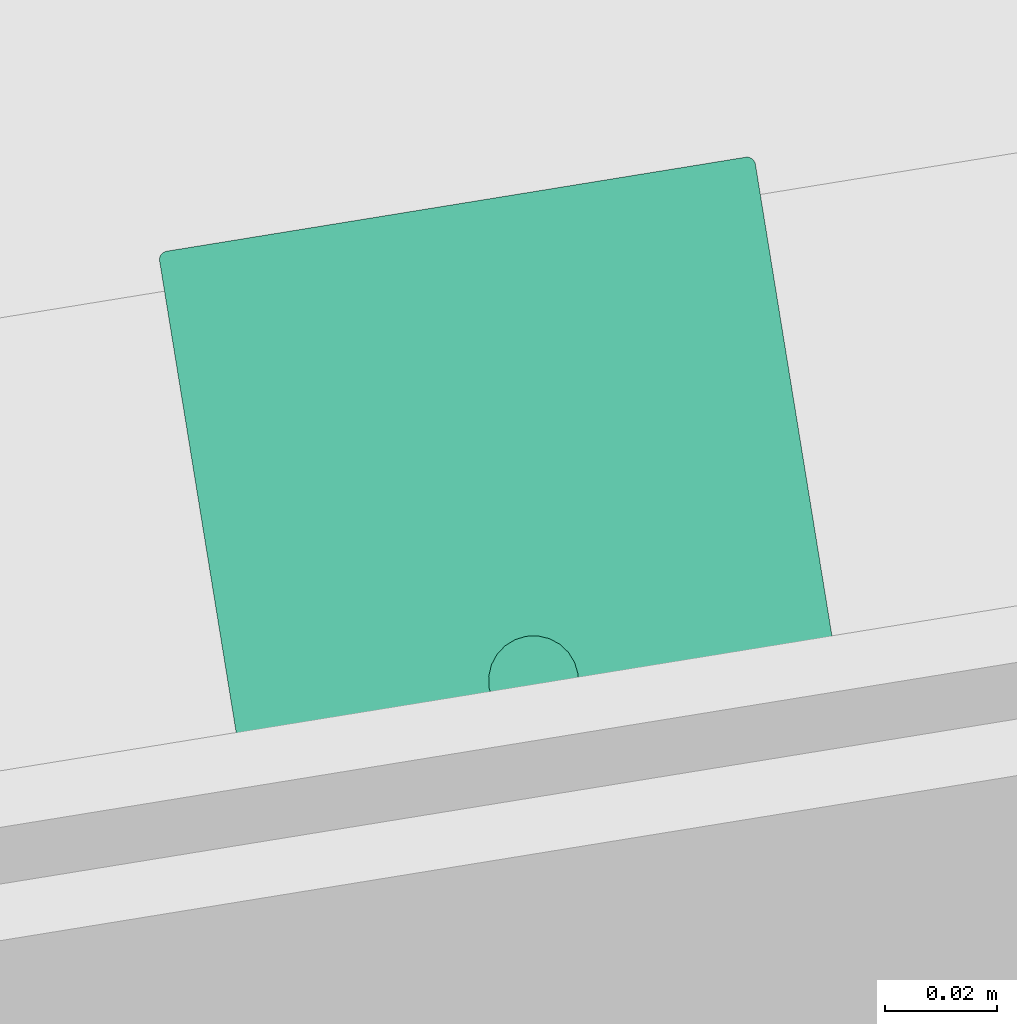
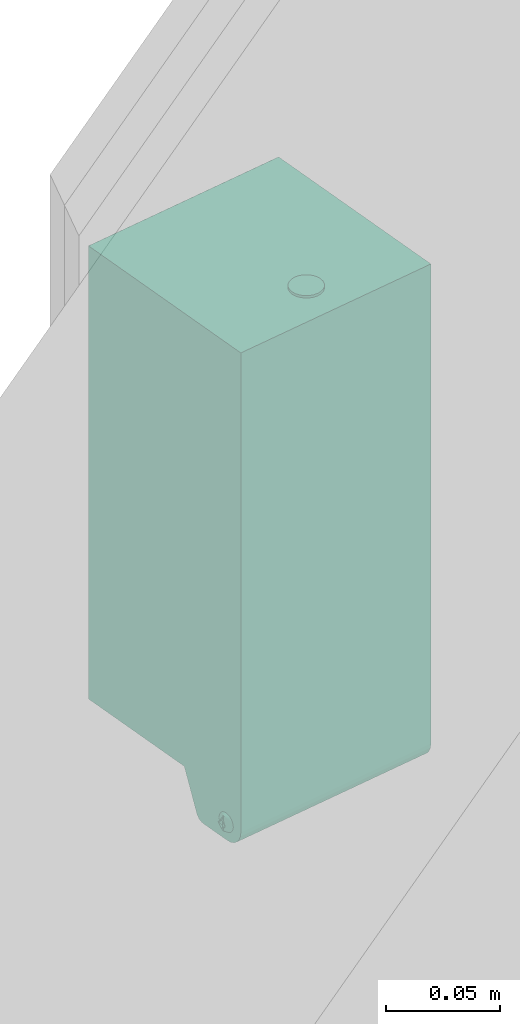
# One storey, part 32 of 38: 1 flow terminal.
"""IFC2X3 building model written with IfcOpenShell, lengths in millimetres."""

import ifcopenshell
import ifcopenshell.guid

model = None  # the IFC model being written
_history = None  # IfcOwnerHistory: only IFC2X3 demands one
_inside = {}  # id of a spatial element -> (the spatial element, [elements in it])
_under = {}  # id of a project, library or spatial element -> (it, [spatial elements below it])
_declared = {}  # id of a project -> (the project, [libraries it declares])
_typed = {}  # id of a type object -> (the type object, [elements of that type])
_made_of = {}  # id of a material, layer set ... -> (it, [elements and type objects made of it])


def new_model(schema):
    """Start an empty IFC model of exactly this schema.

    Asked for "IFC4X3", IfcOpenShell would pick the latest addendum, in which some entities
    have other attributes; the version numbers below select the first issue.
    IFC2X3 requires an IfcOwnerHistory on every rooted entity: one is made here for all.
    """
    global model, _history
    if schema == "IFC4X3":
        model = ifcopenshell.file(schema_version=(4, 3, 0, 0))
    else:
        model = ifcopenshell.file(schema=schema)
    _inside.clear()
    _under.clear()
    _declared.clear()
    _typed.clear()
    _made_of.clear()
    _history = None
    if model.schema == "IFC2X3":
        org = make("IfcOrganization", Name="unknown")
        user = make(
            "IfcPersonAndOrganization",
            ThePerson=make("IfcPerson", FamilyName="unknown"),
            TheOrganization=org,
        )
        app = make(
            "IfcApplication",
            ApplicationDeveloper=org,
            Version="unknown",
            ApplicationFullName="unknown",
            ApplicationIdentifier="unknown",
        )
        _history = make(
            "IfcOwnerHistory",
            OwningUser=user,
            OwningApplication=app,
            ChangeAction="ADDED",
            CreationDate=0,
        )
    return model


def make(cls, **values):
    """One entity of the class cls with the attributes given. An attribute that is None is left unset."""
    return model.create_entity(
        cls, **{name: value for name, value in values.items() if value is not None}
    )


def entity(cls, *values):
    """Any entity or typed value of the class cls, its attributes in the order of the schema. None: left unset."""
    e = model.create_entity(cls)
    for i, value in enumerate(values):
        if value is not None:
            e[i] = value
    return e


def rooted(cls, **values):
    """An entity with a GlobalId (a new one), such as an element, a storey or a relation."""
    return make(cls, GlobalId=ifcopenshell.guid.new(), OwnerHistory=_history, **values)


def si_unit(unit_type, name, prefix=None):
    """IfcSIUnit, for example si_unit("LENGTHUNIT", "METRE", prefix="MILLI")."""
    return make("IfcSIUnit", UnitType=unit_type, Prefix=prefix, Name=name)


def converted_unit(unit_type, name, factor, base, dimensions=None, offset=None):
    """IfcConversionBasedUnit, such as the inch: factor (a typed value) times the base unit."""
    return make(
        "IfcConversionBasedUnit"
        if offset is None
        else "IfcConversionBasedUnitWithOffset",
        ConversionOffset=offset,
        Dimensions=None
        if dimensions is None
        else entity("IfcDimensionalExponents", *dimensions),
        UnitType=unit_type,
        Name=name,
        ConversionFactor=make(
            "IfcMeasureWithUnit", ValueComponent=factor, UnitComponent=base
        ),
    )


def derived_unit(unit_type, elements):
    """IfcDerivedUnit: a product of units, each with its exponent."""
    return make(
        "IfcDerivedUnit",
        Elements=[
            make("IfcDerivedUnitElement", Unit=unit, Exponent=power)
            for unit, power in elements
        ],
        UnitType=unit_type,
    )


def assignment(units):
    """IfcUnitAssignment: the units of a project."""
    return None if units is None else make("IfcUnitAssignment", Units=units)


def point(xyz):
    """IfcCartesianPoint."""
    return None if xyz is None else make("IfcCartesianPoint", Coordinates=xyz)


def direction(xyz):
    """IfcDirection."""
    return None if xyz is None else make("IfcDirection", DirectionRatios=xyz)


def frame(location, z_axis=None, x_axis=None):
    """IfcAxis2Placement3D, a coordinate frame: its origin and axes. An axis left out is left unset."""
    return make(
        "IfcAxis2Placement3D",
        Location=point(location),
        Axis=direction(z_axis),
        RefDirection=direction(x_axis),
    )


def origin():
    """The frame at (0, 0, 0) with its axes left unset."""
    return frame((0.0, 0.0, 0.0))


def origin_with_axes():
    """The frame at (0, 0, 0) with the z axis (0, 0, 1) and the x axis (1, 0, 0) written out."""
    return frame((0.0, 0.0, 0.0), z_axis=(0.0, 0.0, 1.0), x_axis=(1.0, 0.0, 0.0))


def place(relative_to, where):
    """IfcLocalPlacement: puts the frame where relative to a parent placement (None: the world)."""
    return make(
        "IfcLocalPlacement", PlacementRelTo=relative_to, RelativePlacement=where
    )


def context(
    kind, dimensions, precision=None, world=None, true_north=None, identifier=None
):
    """IfcGeometricRepresentationContext, for example the 3D "Model" context."""
    return make(
        "IfcGeometricRepresentationContext",
        ContextIdentifier=identifier,
        ContextType=kind,
        CoordinateSpaceDimension=dimensions,
        Precision=precision,
        WorldCoordinateSystem=world,
        TrueNorth=true_north,
    )


def subcontext(parent, identifier, kind, view, scale=None):
    """IfcGeometricRepresentationSubContext, for example "Body" below "Model"."""
    return make(
        "IfcGeometricRepresentationSubContext",
        ContextIdentifier=identifier,
        ContextType=kind,
        ParentContext=parent,
        TargetScale=scale,
        TargetView=view,
    )


def project(units=None, contexts=None):
    """IfcProject with its units and contexts."""
    return rooted(
        "IfcProject",
        Name="project",
        RepresentationContexts=contexts,
        UnitsInContext=assignment(units),
    )


def spatial(cls, under=None, at=None, **own):
    """A site, building, storey or space (cls), placed at a placement, below another one or the project."""
    s = rooted(cls, ObjectPlacement=at, **own)
    if under is not None:
        _under.setdefault(under.id(), (under, []))[1].append(s)
    return s


def faces_of(points, faces, orient=None, outer=None):
    """IfcFace entities. A face is a list of loops; a loop is a list of indices into points, from 0.

    orient and outer hold one flag for each loop. By default every Orientation is true, the
    first loop of a face is its IfcFaceOuterBound and the others are IfcFaceBound.
    """
    made = []
    for i, loops in enumerate(faces):
        bounds = []
        for j, loop in enumerate(loops):
            is_outer = j == 0 if outer is None else outer[i][j]
            bounds.append(
                make(
                    "IfcFaceOuterBound" if is_outer else "IfcFaceBound",
                    Bound=make("IfcPolyLoop", Polygon=[points[k] for k in loop]),
                    Orientation=True if orient is None else orient[i][j],
                )
            )
        made.append(make("IfcFace", Bounds=bounds))
    return made


def face_set(faces, orient=None, outer=None):
    """The faces of one IfcConnectedFaceSet. surface_model builds it on its shared points."""
    return ("IfcConnectedFaceSet", faces, orient, outer)


def surface_model(cls, points, shells):
    """IfcFaceBasedSurfaceModel or IfcShellBasedSurfaceModel (cls): surfaces that need not close."""
    shared = [point(p) for p in points]
    made = [make(c, CfsFaces=faces_of(shared, fs, o, b)) for c, fs, o, b in shells]
    if cls == "IfcFaceBasedSurfaceModel":
        return make(cls, FbsmFaces=made)
    return make(cls, SbsmBoundary=made)


def shape(context_of_items, identifier, shape_type, items):
    """IfcShapeRepresentation: the items that make up one representation, for example the "Body"."""
    return make(
        "IfcShapeRepresentation",
        ContextOfItems=context_of_items,
        RepresentationIdentifier=identifier,
        RepresentationType=shape_type,
        Items=items,
    )


def source(mapping_origin, context_of_items, identifier, shape_type, items):
    """IfcRepresentationMap: a shape defined once, which mapped items show again and again."""
    return make(
        "IfcRepresentationMap",
        MappingOrigin=mapping_origin,
        MappedRepresentation=shape(context_of_items, identifier, shape_type, items),
    )


def transform(
    local_origin,
    x_axis=None,
    y_axis=None,
    z_axis=None,
    scale=None,
    scale2=None,
    scale3=None,
    uniform=True,
):
    """IfcCartesianTransformationOperator3D, or its non-uniform kind. x_axis, y_axis, z_axis: its Axis1, 2, 3."""
    if uniform:
        return make(
            "IfcCartesianTransformationOperator3D",
            Axis1=direction(x_axis),
            Axis2=direction(y_axis),
            LocalOrigin=point(local_origin),
            Scale=scale,
            Axis3=direction(z_axis),
        )
    return make(
        "IfcCartesianTransformationOperator3DnonUniform",
        Axis1=direction(x_axis),
        Axis2=direction(y_axis),
        LocalOrigin=point(local_origin),
        Scale=scale,
        Axis3=direction(z_axis),
        Scale2=scale2,
        Scale3=scale3,
    )


def mapped(mapping_source, mapping_target):
    """IfcMappedItem: shows the shape of a source again, moved by a transform."""
    return make(
        "IfcMappedItem", MappingSource=mapping_source, MappingTarget=mapping_target
    )


def material(Name=None, Category=None):
    """IfcMaterial."""
    return make("IfcMaterial", Name=Name, Category=Category)


def material_list(materials):
    """IfcMaterialList."""
    return make("IfcMaterialList", Materials=materials)


def made_of(thing, what):
    """Note that an element or type object is made of a material, layer set ...; save() writes the relation."""
    if what is not None:
        _made_of.setdefault(what.id(), (what, []))[1].append(thing)
    return thing


def type_object(cls, material=None, **own):
    """A type object (cls), such as IfcWallType, which elements share."""
    return made_of(rooted(cls, **own), material)


def element(
    cls,
    number,
    at=None,
    inside=None,
    cuts=None,
    type_object=None,
    material=None,
    context=None,
    identifier="Body",
    shape_type=None,
    held_by="IfcProductDefinitionShape",
    body=None,
    shapes=None,
    **own,
):
    """One element of the class cls, such as IfcWall. Its Tag is "e" and its number.

    at: its placement. inside: the storey or other place that contains it. cuts: it is an
    opening in that element (IfcRelVoidsElement). A single representation is given by context,
    identifier, shape_type and body (its items); several are given by shapes. held_by: the class
    of the entity that holds the representations. save() writes the other relations.
    """
    e = rooted(cls, Tag="e%d" % number, ObjectPlacement=at, **own)
    if body is not None:
        shapes = [shape(context, identifier, shape_type, body)]
    if shapes is not None:
        e.Representation = make(held_by, Representations=shapes)
    if inside is not None:
        _inside.setdefault(inside.id(), (inside, []))[1].append(e)
    if cuts is not None:
        rooted(
            "IfcRelVoidsElement", RelatingBuildingElement=cuts, RelatedOpeningElement=e
        )
    if type_object is not None:
        _typed.setdefault(type_object.id(), (type_object, []))[1].append(e)
    return made_of(e, material)


def aggregate(whole, parts):
    """IfcRelAggregates: a whole, such as a stair, and the parts it consists of."""
    return rooted("IfcRelAggregates", RelatingObject=whole, RelatedObjects=parts)


def save(model, path):
    """Write the relations noted so far, then the file.

    IfcRelAggregates (storeys below a building ...), IfcRelContainedInSpatialStructure (elements
    in a storey), IfcRelDefinesByType, IfcRelAssociatesMaterial and IfcRelDeclares: one each for
    every whole, place, type object, material and project.
    """
    for whole, parts in _under.values():
        aggregate(whole, parts)
    for where, things in _inside.values():
        rooted(
            "IfcRelContainedInSpatialStructure",
            RelatedElements=things,
            RelatingStructure=where,
        )
    for kind, things in _typed.values():
        rooted("IfcRelDefinesByType", RelatedObjects=things, RelatingType=kind)
    for what, things in _made_of.values():
        rooted("IfcRelAssociatesMaterial", RelatedObjects=things, RelatingMaterial=what)
    for by, libraries in _declared.values():
        rooted("IfcRelDeclares", RelatingContext=by, RelatedDefinitions=libraries)
    model.write(path)


model = new_model("IFC2X3")

# Units and contexts
model_context = context("Model", 3, precision=0.01, world=origin(), true_north=direction((6.12323399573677e-17, 1.0)))
plan_context = context("Plan", 3, precision=1e-05, world=origin_with_axes())
body_context = subcontext(model_context, "Body", "Model", "MODEL_VIEW")
ifc_project = project(units=[converted_unit("PLANEANGLEUNIT", "DEGREE", entity("IfcPositiveLengthMeasure", 0.0174532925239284), si_unit("PLANEANGLEUNIT", "RADIAN"), dimensions=[0, 0, 0, 0, 0, 0, 0]), si_unit("AREAUNIT", "SQUARE_METRE"), si_unit("LENGTHUNIT", "METRE", prefix="MILLI"), si_unit("MASSUNIT", "GRAM", prefix="KILO"), si_unit("POWERUNIT", "WATT"), si_unit("PRESSUREUNIT", "PASCAL", prefix="KILO"), si_unit("FORCEUNIT", "NEWTON", prefix="KILO"), si_unit("ELECTRICVOLTAGEUNIT", "VOLT"), si_unit("ELECTRICCURRENTUNIT", "AMPERE"), si_unit("THERMODYNAMICTEMPERATUREUNIT", "DEGREE_CELSIUS"), si_unit("TIMEUNIT", "SECOND"), si_unit("VOLUMEUNIT", "CUBIC_METRE"), derived_unit("LINEARVELOCITYUNIT", [(si_unit("LENGTHUNIT", "METRE"), 1), (si_unit("TIMEUNIT", "SECOND"), -1)]), derived_unit("VOLUMETRICFLOWRATEUNIT", [(si_unit("VOLUMEUNIT", "CUBIC_METRE"), 1), (si_unit("TIMEUNIT", "SECOND"), -1)]), derived_unit("THERMALTRANSMITTANCEUNIT", [(si_unit("POWERUNIT", "WATT"), 1), (si_unit("THERMODYNAMICTEMPERATUREUNIT", "KELVIN"), -1), (si_unit("AREAUNIT", "SQUARE_METRE"), -1)]), derived_unit("SOUNDPRESSUREUNIT", [(si_unit("PRESSUREUNIT", "PASCAL"), 1)])], contexts=[model_context, plan_context])

# Site, building, storey
site_placement = place(None, frame((-0.00071070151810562, 0.00438415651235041, 0.0), z_axis=(0.0, 0.0, 1.0), x_axis=(-0.160236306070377, 0.987078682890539, 0.0)))
site = spatial("IfcSite", under=ifc_project, at=site_placement, Name="Default", CompositionType="ELEMENT")
building_placement = place(site_placement, origin_with_axes())
building = spatial("IfcBuilding", under=site, at=building_placement, Name="TOO", CompositionType="ELEMENT")
storey_placement = place(building_placement, frame((0.0, 0.0, 50999.9999999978), z_axis=(0.0, 0.0, 1.0), x_axis=(1.0, 0.0, 0.0)))
storey = spatial("IfcBuildingStorey", under=building, at=storey_placement, Name="Nivå D-H01", CompositionType="ELEMENT", Elevation=50999.9999999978)

# Flow terminal
ifc_material_1 = material(Name="GFRP")
ifc_material_2 = material(Name="Satin")
ifc_material_list_1 = material_list([ifc_material_1, ifc_material_2])
ifc_material_list_2 = material_list([ifc_material_2, ifc_material_1])
distribution_element_type = type_object("IfcDistributionElementType", Name="A274 - Såp dispenser-berøringsfri:Såp-berøringsfri", material=ifc_material_list_2)
shared_shape = source(origin(), body_context, "Body", "SurfaceModel", [
    surface_model("IfcFaceBasedSurfaceModel", [(53.867833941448, -70.0655699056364, 28.580410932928), (53.867833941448, -70.0655699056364, 23.5804109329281), (49.562616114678, -74.3707877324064, 23.5804109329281), (49.562616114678, -74.3707877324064, 28.580410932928), (53.867833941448, -78.6760055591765, 23.5804109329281), (53.867833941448, -78.6760055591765, 28.580410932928), (58.173051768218, -74.3707877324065, 23.5804109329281), (58.173051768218, -74.3707877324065, 28.580410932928), (53.867833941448, -74.3707877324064, 28.580410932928), (51.6222204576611, -74.3707877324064, 10.5765808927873), (53.867833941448, -74.3707877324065, 10.5765808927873), (53.867833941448, -76.6164012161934, 10.5765808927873), (53.867833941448, -72.1251742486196, 10.5765808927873), (56.1134474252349, -74.3707877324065, 10.5765808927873)], [face_set([[[0, 1, 2, 3]], [[2, 4, 5, 3]], [[5, 4, 6, 7]], [[6, 1, 0, 7]], [[5, 8, 3]], [[5, 7, 8]], [[0, 8, 7]], [[0, 3, 8]], [[9, 10, 11]], [[10, 9, 12]], [[13, 10, 12]], [[10, 13, 11]], [[12, 9, 2, 1]], [[2, 9, 11, 4]], [[11, 13, 6, 4]], [[6, 13, 12, 1]]])]),
    surface_model("IfcFaceBasedSurfaceModel", [(108.0, -39.4140796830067, 23.580410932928), (108.0, -30.697885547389, 3.04634435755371), (108.0, -30.1198302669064, 2.0329055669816), (108.0, -29.3226497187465, 1.1810198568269), (108.0, -28.3497489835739, 0.537070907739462), (108.0, -27.2541007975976, 0.136120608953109), (108.0, -26.0953612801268, 0.0), (108.0, -9.47406113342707, 0.0), (108.0, -7.02199367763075, 0.322820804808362), (108.0, -4.73703056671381, 1.26928351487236), (108.0, -2.77488826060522, 2.77488826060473), (108.0, -1.26928351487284, 4.73703056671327), (108.0, -0.322820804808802, 7.02199367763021), (108.0, 0.0, 9.47406113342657), (108.0, 0.0, 267.0), (108.0, -102.0, 267.0), (108.0, -105.492714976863, 267.0), (108.0, -105.492714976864, 23.5804109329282), (108.0, -102.0, 23.5804109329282), (108.0, -10.1917276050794, 14.4016882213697), (108.0, -8.90825756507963, 14.2327161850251), (108.0, -7.71225388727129, 13.7373152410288), (108.0, -6.68522224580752, 12.9492461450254), (108.0, -5.89715314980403, 11.9222145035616), (108.0, -5.4017522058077, 10.7262108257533), (108.0, -5.23278016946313, 9.44274078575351), (108.0, -5.40175220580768, 8.15927074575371), (108.0, -5.89715314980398, 6.96326706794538), (108.0, -6.68522224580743, 5.93623542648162), (108.0, -7.71225388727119, 5.14816633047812), (108.0, -8.90825756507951, 4.65276538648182), (108.0, -10.1917276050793, 4.48379335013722), (108.0, -11.4751976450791, 4.65276538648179), (108.0, -12.6712013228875, 5.14816633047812), (108.0, -13.6982329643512, 5.93623542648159), (108.0, -14.4863020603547, 6.96326706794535), (108.0, -14.981703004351, 8.15927074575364), (108.0, -15.1506750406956, 9.44274078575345), (108.0, -14.981703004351, 10.7262108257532), (108.0, -14.4863020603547, 11.9222145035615), (108.0, -13.6982329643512, 12.9492461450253), (108.0, -12.6712013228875, 13.7373152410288), (108.0, -11.4751976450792, 14.2327161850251), (0.0, 0.0, 267.0), (0.0, 0.0, 9.47406113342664), (0.0, -0.322820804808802, 7.02199367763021), (0.0, -1.26928351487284, 4.73703056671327), (0.0, -2.77488826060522, 2.77488826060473), (0.0, -4.73703056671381, 1.26928351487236), (0.0, -7.02199367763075, 0.322820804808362), (0.0, -9.47406113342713, 0.0), (0.0, -26.0953612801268, 0.0), (0.0, -27.2541007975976, 0.136120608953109), (0.0, -28.3497489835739, 0.537070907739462), (0.0, -29.3226497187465, 1.1810198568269), (0.0, -30.1198302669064, 2.0329055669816), (0.0, -30.697885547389, 3.04634435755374), (0.0, -39.4140796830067, 23.580410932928), (0.0, -102.0, 23.5804109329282), (0.0, -105.492714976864, 23.5804109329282), (0.0, -105.492714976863, 267.0), (0.0, -102.0, 267.0), (0.0, -10.1917276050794, 4.47674269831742), (0.0, -8.90825756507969, 4.64571473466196), (0.0, -7.71225388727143, 5.14111567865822), (0.0, -6.68522224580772, 5.92918477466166), (0.0, -5.89715314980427, 6.95621641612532), (0.0, -5.40175220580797, 8.15222009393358), (0.0, -5.2327801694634, 9.43569013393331), (0.0, -5.40175220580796, 10.719160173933), (0.0, -5.89715314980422, 11.9151638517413), (0.0, -6.68522224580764, 12.942195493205), (0.0, -7.71225388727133, 13.7302645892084), (0.0, -8.90825756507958, 14.2256655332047), (0.0, -10.1917276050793, 14.3946375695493), (0.0, -11.4751976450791, 14.2256655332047), (0.0, -12.6712013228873, 13.7302645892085), (0.0, -13.698232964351, 12.942195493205), (0.0, -14.4863020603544, 11.9151638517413), (0.0, -14.9817030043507, 10.7191601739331), (0.0, -15.1506750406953, 9.43569013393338), (0.0, -14.9817030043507, 8.15222009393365), (0.0, -14.4863020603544, 6.95621641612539), (0.0, -13.698232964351, 5.92918477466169), (0.0, -12.6712013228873, 5.14111567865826), (0.0, -11.4751976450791, 4.645714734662), (62.0462019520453, -20.6328952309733, 267.0), (61.7720342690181, -22.7154055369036, 267.0), (60.9682152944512, -24.6559962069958, 267.0), (59.6895239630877, -26.3224191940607, 267.0), (58.0231009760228, -27.6011105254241, 267.0), (56.0825103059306, -28.404929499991, 267.0), (54.0, -28.6790971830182, 267.0), (51.9174896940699, -28.404929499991, 267.0), (49.9768990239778, -27.6011105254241, 267.0), (48.3104760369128, -26.3224191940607, 267.0), (47.0317847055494, -24.6559962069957, 267.0), (46.2279657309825, -22.7154055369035, 267.0), (45.9537980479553, -20.6328952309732, 267.0), (46.2279657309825, -18.5503849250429, 267.0), (47.0317847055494, -16.6097942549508, 267.0), (48.3104760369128, -14.9433712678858, 267.0), (49.9768990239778, -13.6646799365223, 267.0), (51.9174896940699, -12.8608609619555, 267.0), (54.0, -12.5866932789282, 267.0), (56.0825103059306, -12.8608609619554, 267.0), (58.0231009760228, -13.6646799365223, 267.0), (59.6895239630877, -14.9433712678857, 267.0), (60.9682152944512, -16.6097942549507, 267.0), (61.7720342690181, -18.5503849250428, 267.0), (106.492714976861, -107.0, 265.49271497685), (1.50728502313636, -107.0, 265.49271497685), (1.50728502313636, -107.0, 25.0876959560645), (106.492714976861, -107.0, 25.0876959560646), (52.7912009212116, -66.0156781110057, 23.5804109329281), (53.8678339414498, -66.0156781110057, 23.5804109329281), (54.8864505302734, -66.0156781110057, 23.5804109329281), (56.180545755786, -66.1860489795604, 23.5804109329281), (57.3864505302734, -66.6855510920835, 23.5804109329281), (58.4219844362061, -67.480144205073, 23.5804109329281), (59.2165775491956, -68.5156781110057, 23.5804109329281), (59.7160796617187, -69.7215828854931, 23.5804109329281), (59.8864505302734, -71.0156781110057, 23.5804109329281), (59.8864505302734, -78.2876945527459, 23.5804109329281), (59.7160796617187, -79.5817897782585, 23.5804109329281), (59.2165775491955, -80.7876945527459, 23.5804109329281), (58.421984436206, -81.8232284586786, 23.5804109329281), (57.3864505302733, -82.6178215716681, 23.5804109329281), (56.1805457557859, -83.1173236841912, 23.5804109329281), (54.8864505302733, -83.2876945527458, 23.5804109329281), (53.8678339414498, -83.2876945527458, 23.5804109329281), (52.7912009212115, -83.2876945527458, 23.5804109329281), (51.4971056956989, -83.1173236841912, 23.5804109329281), (50.2912009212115, -82.617821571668, 23.5804109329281), (49.2556670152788, -81.8232284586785, 23.5804109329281), (48.4610739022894, -80.7876945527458, 23.5804109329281), (47.9615717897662, -79.5817897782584, 23.5804109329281), (47.7912009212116, -78.2876945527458, 23.5804109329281), (47.7912009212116, -71.0156781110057, 23.5804109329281), (47.9615717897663, -69.721582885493, 23.5804109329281), (48.4610739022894, -68.5156781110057, 23.5804109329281), (49.2556670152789, -67.4801442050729, 23.5804109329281), (50.2912009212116, -66.6855510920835, 23.5804109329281), (51.497105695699, -66.1860489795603, 23.5804109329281), (21.4393647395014, -65.982107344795, 23.5804109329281), (34.9323252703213, -65.982107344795, 23.5804109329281), (35.8346332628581, -66.1008984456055, 23.5804109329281), (36.675450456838, -66.4491763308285, 23.5804109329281), (37.3974765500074, -67.0032064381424, 23.5804109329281), (37.9515066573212, -67.7252325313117, 23.5804109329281), (38.2997845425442, -68.5660497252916, 23.5804109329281), (38.4185756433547, -69.4683577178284, 23.5804109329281), (38.4185756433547, -75.8811109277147, 23.5804109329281), (38.2982643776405, -76.7949657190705, 23.5804109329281), (37.9455295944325, -77.6465428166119, 23.5804109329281), (37.3844095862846, -78.3778086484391, 23.5804109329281), (36.6531437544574, -78.9389286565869, 23.5804109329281), (35.801566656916, -79.2916634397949, 23.5804109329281), (34.8877118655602, -79.4119747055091, 23.5804109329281), (21.5001245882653, -79.4119747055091, 23.5804109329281), (20.5896400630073, -79.2921071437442, 23.5804109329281), (19.7412035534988, -78.9406732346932, 23.5804109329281), (19.0126346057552, -78.3816226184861, 23.5804109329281), (18.4535839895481, -77.6530536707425, 23.5804109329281), (18.1021500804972, -76.804617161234, 23.5804109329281), (17.9822825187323, -75.8941326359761, 23.5804109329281), (17.9822825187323, -69.4391895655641, 23.5804109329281), (18.1000797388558, -68.5444308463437, 23.5804109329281), (18.4454437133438, -67.7106484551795, 23.5804109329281), (18.9948384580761, -66.9946632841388, 23.5804109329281), (19.7108236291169, -66.4452685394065, 23.5804109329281), (20.5446060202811, -66.0999045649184, 23.5804109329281), (0.0513594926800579, -105.882826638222, 266.948640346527), (107.948643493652, -105.882826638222, 266.948640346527), (0.201937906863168, -106.24635822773, 266.798068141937), (107.798062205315, -106.24635822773, 266.798068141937), (0.441473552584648, -106.558530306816, 266.55852971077), (107.558523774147, -106.558530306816, 266.55852971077), (107.246360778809, -106.798059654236, 266.246357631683), (0.753642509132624, -106.798059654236, 266.246357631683), (1.11717097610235, -106.948640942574, 265.882826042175), (106.882829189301, -106.948640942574, 265.882826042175), (107.948643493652, -105.882826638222, 23.6317697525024), (107.798062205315, -106.24635822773, 23.7823487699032), (107.558523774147, -106.558530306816, 24.0218849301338), (107.246360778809, -106.798059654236, 24.3340524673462), (106.882829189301, -106.948640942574, 24.6975817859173), (0.0513594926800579, -105.882826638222, 23.6317697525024), (0.201937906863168, -106.24635822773, 23.7823487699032), (0.441473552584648, -106.558530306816, 24.0218849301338), (0.753642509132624, -106.798059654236, 24.3340524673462), (1.11717097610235, -106.948640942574, 24.6975817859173), (103.0, -103.251438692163, 262.0), (103.0, -103.251438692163, 36.8655832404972), (103.0, -5.0, 36.8655832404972), (103.0, -5.0, 262.0), (5.0, -103.251438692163, 262.0), (5.0, -103.251438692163, 36.8655832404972), (5.0, -5.0, 36.8655832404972), (5.0, -5.0, 262.0), (22.8256689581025, -77.59544538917, 36.8655832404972), (22.0943320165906, -77.499163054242, 36.8655832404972), (21.4128344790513, -77.2168775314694, 36.8655832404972), (20.8276192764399, -76.7678261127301, 36.8655832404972), (20.3785678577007, -76.1826109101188, 36.8655832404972), (20.0962823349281, -75.5011133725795, 36.8655832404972), (20.0, -74.7697764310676, 36.8655832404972), (20.0, -70.2955045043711, 36.8655832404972), (20.0960772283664, -69.565725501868, 36.8655832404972), (20.3777614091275, -68.8856797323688, 36.8655832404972), (20.8258562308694, -68.3017111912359, 36.8655832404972), (21.4098247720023, -67.853616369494, 36.8655832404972), (22.0898705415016, -67.5719321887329, 36.8655832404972), (22.8196495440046, -67.4758549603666, 36.8655832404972), (27.3662521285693, -67.4758549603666, 36.8655832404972), (27.3662521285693, -77.5954453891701, 36.8655832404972), (33.6447360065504, -67.4758549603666, 36.8655832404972), (34.3668779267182, -67.5709267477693, 36.8655832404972), (35.0398070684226, -67.8496631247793, 36.8655832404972), (35.6176644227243, -68.2930686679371, 36.8655832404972), (36.0610699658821, -68.8709260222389, 36.8655832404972), (36.3398063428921, -69.5438551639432, 36.8655832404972), (36.4348781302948, -70.2659970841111, 36.8655832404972), (36.4348781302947, -74.7965946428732, 36.8655832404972), (36.3395096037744, -75.5209905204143, 36.8655832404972), (36.059903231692, -76.1960200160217, 36.8655832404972), (35.6151137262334, -76.7756809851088, 36.8655832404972), (35.0354527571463, -77.2204704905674, 36.8655832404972), (34.3604232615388, -77.5000768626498, 36.8655832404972), (33.6360273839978, -77.5954453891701, 36.8655832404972), (29.2343736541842, -77.5954453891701, 36.8655832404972), (29.2343736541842, -67.4758549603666, 36.8655832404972), (45.9537980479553, -20.6328952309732, 268.289828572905), (46.2279657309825, -22.7154055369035, 268.289828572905), (47.0317847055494, -24.6559962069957, 268.289828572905), (48.3104760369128, -26.3224191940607, 268.289828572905), (49.9768990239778, -27.6011105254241, 268.289828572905), (51.9174896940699, -28.404929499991, 268.289828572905), (54.0, -28.6790971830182, 268.289828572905), (56.0825103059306, -28.404929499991, 268.289828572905), (58.0231009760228, -27.6011105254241, 268.289828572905), (59.6895239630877, -26.3224191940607, 268.289828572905), (60.9682152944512, -24.6559962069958, 268.289828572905), (61.7720342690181, -22.7154055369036, 268.289828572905), (62.0462019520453, -20.6328952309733, 268.289828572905), (61.7720342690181, -18.5503849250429, 268.289828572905), (60.9682152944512, -16.6097942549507, 268.289828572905), (59.6895239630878, -14.9433712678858, 268.289828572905), (58.0231009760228, -13.6646799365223, 268.289828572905), (56.0825103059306, -12.8608609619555, 268.289828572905), (54.0, -12.5866932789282, 268.289828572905), (51.91748969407, -12.8608609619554, 268.289828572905), (49.9768990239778, -13.6646799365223, 268.289828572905), (48.3104760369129, -14.9433712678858, 268.289828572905), (47.0317847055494, -16.6097942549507, 268.289828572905), (46.2279657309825, -18.5503849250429, 268.289828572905), (-1.7359445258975, -10.1917277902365, 8.08627173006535), (-2.57580088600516, -10.1917277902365, 6.98785131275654), (-2.57580088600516, -7.74388880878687, 9.43569029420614), (-1.582628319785, -10.1917277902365, 8.77226217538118), (-2.16289401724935, -10.1917277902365, 11.3435016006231), (-1.7359445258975, -10.1917277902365, 10.7851088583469), (-1.43435472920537, -10.1917277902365, 9.43569029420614), (-1.582628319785, -10.1917277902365, 10.0991178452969), (-2.57580088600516, -10.1917277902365, 11.8835292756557), (-2.57580088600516, -12.6395662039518, 9.43569029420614), (-2.16289401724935, -10.1917277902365, 7.52787842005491), (-2.05121104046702, -10.1917277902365, 12.820721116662), (-1.65959448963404, -10.1917277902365, 13.5203536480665), (-1.65959448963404, -10.1917277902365, 5.35102694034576), (-2.05121104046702, -10.1917277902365, 6.05065947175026), (110.575799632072, -7.74388880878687, 9.44274098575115), (110.575799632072, -10.1917277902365, 11.8905793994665), (109.735943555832, -10.1917277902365, 10.7921589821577), (109.582628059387, -10.1917277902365, 10.1061691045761), (110.162897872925, -10.1917277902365, 7.53492911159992), (109.735943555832, -10.1917277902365, 8.09332242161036), (109.434354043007, -10.1917277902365, 9.44274098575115), (109.582628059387, -10.1917277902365, 8.77931286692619), (110.575799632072, -10.1917277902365, 6.99490200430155), (110.575799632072, -12.6395662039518, 9.44274098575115), (110.162897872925, -10.1917277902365, 11.3505528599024), (110.05121319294, -10.1917277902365, 6.05771016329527), (109.659594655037, -10.1917277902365, 5.35807763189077), (109.659594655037, -10.1917277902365, 13.5274037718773), (110.05121319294, -10.1917277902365, 12.8277712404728), (52.7912009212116, -66.0156781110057, 21.9289741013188), (51.497105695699, -66.1860489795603, 21.9289741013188), (50.2912009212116, -66.6855510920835, 21.9289741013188), (49.2556670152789, -67.4801442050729, 21.9289741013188), (48.4610739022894, -68.5156781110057, 21.9289741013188), (47.9615717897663, -69.7215828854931, 21.9289741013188), (47.7912009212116, -71.0156781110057, 21.9289741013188), (47.7912009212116, -78.2876945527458, 21.9289741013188), (47.9615717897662, -79.5817897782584, 21.9289741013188), (48.4610739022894, -80.7876945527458, 21.9289741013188), (49.2556670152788, -81.8232284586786, 21.9289741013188), (50.2912009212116, -82.617821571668, 21.9289741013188), (51.4971056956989, -83.1173236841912, 21.9289741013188), (52.7912009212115, -83.2876945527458, 21.9289741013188), (53.8678339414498, -83.2876945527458, 21.9289741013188), (54.8864505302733, -83.2876945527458, 21.9289741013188), (56.1805457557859, -83.1173236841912, 21.9289741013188), (57.3864505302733, -82.617821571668, 21.9289741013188), (58.4219844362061, -81.8232284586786, 21.9289741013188), (59.2165775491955, -80.7876945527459, 21.9289741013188), (59.7160796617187, -79.5817897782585, 21.9289741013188), (59.8864505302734, -78.2876945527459, 21.9289741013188), (59.8864505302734, -71.0156781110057, 21.9289741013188), (59.7160796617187, -69.7215828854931, 21.9289741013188), (59.2165775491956, -68.5156781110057, 21.9289741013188), (58.4219844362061, -67.480144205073, 21.9289741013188), (57.3864505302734, -66.6855510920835, 21.9289741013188), (56.180545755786, -66.1860489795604, 21.9289741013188), (54.8864505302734, -66.0156781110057, 21.9289741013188), (53.8678339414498, -66.0156781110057, 21.9289741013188), (20.0962819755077, -75.5011146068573, 21.9289735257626), (20.3785685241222, -76.1826091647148, 21.9289735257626), (20.0000010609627, -74.7697775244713, 21.9289735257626), (20.8276190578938, -76.7678250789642, 21.9289735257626), (22.0943318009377, -77.4991667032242, 21.9289735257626), (22.8256688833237, -77.5954453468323, 21.9289735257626), (21.4128349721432, -77.2168801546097, 21.9289735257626), (27.3662521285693, -77.5954453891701, 21.9289741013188), (27.3662521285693, -67.4758549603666, 21.9289741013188), (22.8196495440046, -67.4758549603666, 21.9289741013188), (21.4098237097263, -67.8536162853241, 21.9289735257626), (22.0898694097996, -67.5719338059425, 21.9289735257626), (20.8258568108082, -68.3017130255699, 21.9289735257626), (20.0960775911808, -69.5657256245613, 21.9289735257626), (20.0000010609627, -70.2955048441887, 21.9289735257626), (20.3777623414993, -68.8856799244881, 21.9289735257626), (36.0610710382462, -68.8709279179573, 21.9289735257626), (36.3398058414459, -69.5438565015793, 21.9289735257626), (36.4348786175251, -70.2659962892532, 21.9289735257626), (35.617663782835, -68.2930698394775, 21.9289735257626), (33.6447350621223, -67.4758550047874, 21.9289735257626), (34.3668771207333, -67.5709255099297, 21.9289735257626), (35.0398079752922, -67.8496648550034, 21.9289735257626), (29.2343736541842, -67.4758549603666, 21.9289741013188), (29.2343736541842, -77.5954453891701, 21.9289741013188), (33.6360273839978, -77.5954453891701, 21.9289741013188), (34.3604231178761, -77.5000750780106, 21.9289735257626), (35.0354523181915, -77.2204682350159, 21.9289735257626), (35.6151135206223, -76.7756825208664, 21.9289735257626), (36.4348786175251, -74.7965927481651, 21.9289735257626), (36.3395106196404, -75.5209898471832, 21.9289735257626), (36.0599037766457, -76.1960213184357, 21.9289735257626), (21.4393647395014, -65.982107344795, 21.9289741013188), (20.5446060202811, -66.0999045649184, 21.9289741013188), (19.7108236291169, -66.4452685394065, 21.9289741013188), (18.9948384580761, -66.9946632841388, 21.9289741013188), (18.4454437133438, -67.7106484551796, 21.9289741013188), (18.1000797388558, -68.5444308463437, 21.9289741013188), (17.9822825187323, -69.4391895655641, 21.9289741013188), (17.9822825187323, -75.8941326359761, 21.9289741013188), (18.1021500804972, -76.8046171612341, 21.9289741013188), (18.4535839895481, -77.6530536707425, 21.9289741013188), (19.0126346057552, -78.3816226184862, 21.9289741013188), (19.7412035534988, -78.9406732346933, 21.9289741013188), (20.5896400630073, -79.2921071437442, 21.9289741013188), (21.5001245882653, -79.4119747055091, 21.9289741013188), (34.8877118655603, -79.4119747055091, 21.9289741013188), (35.8015666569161, -79.2916634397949, 21.9289741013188), (36.6531437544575, -78.9389286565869, 21.9289741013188), (37.3844095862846, -78.377808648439, 21.9289741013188), (37.9455295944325, -77.6465428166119, 21.9289741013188), (38.2982643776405, -76.7949657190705, 21.9289741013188), (38.4185756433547, -75.8811109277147, 21.9289741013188), (38.4185756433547, -69.4683577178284, 21.9289741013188), (38.2997845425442, -68.5660497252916, 21.9289741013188), (37.9515066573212, -67.7252325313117, 21.9289741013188), (37.3974765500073, -67.0032064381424, 21.9289741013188), (36.675450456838, -66.4491763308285, 21.9289741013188), (35.8346332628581, -66.1008984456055, 21.9289741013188), (34.9323252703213, -65.982107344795, 21.9289741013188)], [face_set([[[0, 1, 2, 3, 4, 5, 6, 7, 8, 9, 10, 11, 12, 13, 14, 15, 16, 17, 18], [19, 20, 21, 22, 23, 24, 25, 26, 27, 28, 29, 30, 31, 32, 33, 34, 35, 36, 37, 38, 39, 40, 41, 42]], [[43, 44, 45, 46, 47, 48, 49, 50, 51, 52, 53, 54, 55, 56, 57, 58, 59, 60, 61], [62, 63, 64, 65, 66, 67, 68, 69, 70, 71, 72, 73, 74, 75, 76, 77, 78, 79, 80, 81, 82, 83, 84, 85]], [[14, 43, 61, 60, 16, 15], [86, 87, 88, 89, 90, 91, 92, 93, 94, 95, 96, 97, 98, 99, 100, 101, 102, 103, 104, 105, 106, 107, 108, 109]], [[110, 111, 112, 113]], [[57, 58, 59, 17, 18, 0], [114, 115, 116, 117, 118, 119, 120, 121, 122, 123, 124, 125, 126, 127, 128, 129, 130, 131, 132, 133, 134, 135, 136, 137, 138, 139, 140, 141, 142, 143], [144, 145, 146, 147, 148, 149, 150, 151, 152, 153, 154, 155, 156, 157, 158, 159, 160, 161, 162, 163, 164, 165, 166, 167, 168, 169, 170, 171]], [[1, 0, 57, 56]], [[1, 56, 55, 2]], [[2, 55, 54, 3]], [[3, 54, 53, 4]], [[4, 53, 52, 5]], [[5, 52, 51, 6]], [[7, 6, 51, 50]], [[8, 49, 48, 9]], [[9, 48, 47, 10]], [[7, 50, 49, 8]], [[11, 46, 45, 12]], [[12, 45, 44, 13]], [[46, 11, 10, 47]], [[14, 13, 44, 43]], [[16, 60, 172, 173]], [[173, 172, 174, 175]], [[176, 177, 175, 174]], [[178, 179, 180, 181]], [[181, 180, 111, 110]], [[179, 178, 177, 176]], [[17, 16, 173, 182]], [[182, 173, 175, 183]], [[177, 184, 183, 175]], [[185, 178, 181, 186]], [[186, 181, 110, 113]], [[178, 185, 184, 177]], [[59, 17, 182, 187]], [[187, 182, 183, 188]], [[184, 189, 188, 183]], [[190, 185, 186, 191]], [[191, 186, 113, 112]], [[185, 190, 189, 184]], [[60, 59, 187, 172]], [[172, 187, 188, 174]], [[189, 176, 174, 188]], [[179, 190, 191, 180]], [[180, 191, 112, 111]], [[190, 179, 176, 189]], [[192, 193, 194, 195]], [[196, 197, 198, 199]], [[192, 196, 197, 193]], [[193, 194, 198, 197], [200, 201, 202, 203, 204, 205, 206, 207, 208, 209, 210, 211, 212, 213, 214, 215], [216, 217, 218, 219, 220, 221, 222, 223, 224, 225, 226, 227, 228, 229, 230, 231]], [[194, 195, 199, 198]], [[195, 199, 196, 192]], [[232, 233, 234, 235, 236, 237, 238, 239, 240, 241, 242, 243, 244, 245, 246, 247, 248, 249, 250, 251, 252, 253, 254, 255]], [[98, 97, 233, 232]], [[233, 234, 96, 97]], [[235, 236, 94, 95]], [[234, 235, 95, 96]], [[236, 237, 93, 94]], [[92, 93, 237, 238]], [[238, 239, 91, 92]], [[239, 240, 90, 91]], [[241, 242, 88, 89]], [[240, 241, 89, 90]], [[242, 243, 87, 88]], [[244, 243, 87, 86]], [[86, 109, 245, 244]], [[109, 108, 246, 245]], [[107, 106, 248, 247]], [[108, 107, 247, 246]], [[106, 105, 249, 248]], [[250, 249, 105, 104]], [[104, 103, 251, 250]], [[103, 102, 252, 251]], [[101, 100, 254, 253]], [[102, 101, 253, 252]], [[100, 99, 255, 254]], [[232, 255, 99, 98]], [[256, 257, 258]], [[259, 256, 260, 261]], [[262, 259, 261, 263]], [[256, 260, 258]], [[260, 264, 258]], [[261, 265, 264]], [[266, 265, 257]], [[256, 261, 263, 262]], [[261, 266, 265]], [[256, 266, 261]], [[267, 268, 269, 270]], [[257, 258, 270]], [[269, 68, 67]], [[269, 67, 66]], [[63, 62, 269]], [[270, 267, 258]], [[65, 64, 269]], [[66, 65, 269]], [[63, 269, 64]], [[258, 264, 267]], [[69, 68, 268]], [[268, 68, 269]], [[69, 268, 70]], [[71, 70, 268]], [[268, 72, 73]], [[268, 73, 74]], [[72, 268, 71]], [[265, 264, 268]], [[80, 79, 268]], [[268, 79, 78]], [[77, 78, 268]], [[268, 74, 75]], [[268, 76, 77]], [[76, 268, 75]], [[269, 265, 268]], [[81, 80, 269]], [[269, 80, 268]], [[265, 257, 269]], [[81, 269, 82]], [[83, 82, 269]], [[85, 84, 269]], [[62, 85, 269]], [[83, 269, 84]], [[271, 272, 273]], [[274, 273, 275, 276]], [[277, 274, 276, 278]], [[273, 275, 271]], [[271, 279, 275]], [[279, 280, 276]], [[272, 280, 281]], [[273, 276, 278, 277]], [[276, 281, 280]], [[273, 281, 276]], [[282, 283, 284, 285]], [[272, 271, 285]], [[284, 25, 24]], [[284, 24, 23]], [[284, 19, 20]], [[285, 282, 271]], [[284, 21, 22]], [[23, 22, 284]], [[21, 284, 20]], [[271, 279, 282]], [[26, 25, 283]], [[283, 25, 284]], [[26, 283, 27]], [[28, 27, 283]], [[30, 29, 283]], [[31, 30, 283]], [[28, 283, 29]], [[283, 279, 280]], [[37, 36, 283]], [[283, 36, 35]], [[283, 35, 34]], [[32, 31, 283]], [[34, 33, 283]], [[32, 283, 33]], [[284, 280, 283]], [[38, 37, 284]], [[284, 37, 283]], [[284, 272, 280]], [[38, 284, 39]], [[284, 39, 40]], [[284, 41, 42]], [[284, 42, 19]], [[41, 284, 40]], [[286, 287, 288, 289, 290, 291, 292, 293, 294, 295, 296, 297, 298, 299, 300, 301, 302, 303, 304, 305, 306, 307, 308, 309, 310, 311, 312, 313, 314, 315]], [[114, 143, 287, 286]], [[143, 142, 288, 287]], [[289, 288, 142, 141]], [[141, 140, 290, 289]], [[140, 139, 291, 290]], [[138, 139, 291, 292]], [[292, 138, 137, 293]], [[293, 294, 136, 137]], [[294, 295, 135, 136]], [[134, 135, 295, 296]], [[296, 297, 133, 134]], [[297, 298, 132, 133]], [[131, 132, 298, 299]], [[299, 300, 130, 131]], [[300, 301, 129, 130]], [[301, 302, 128, 129]], [[302, 303, 127, 128]], [[126, 127, 303, 304]], [[304, 305, 125, 126]], [[305, 306, 124, 125]], [[123, 124, 306, 307]], [[307, 308, 122, 123]], [[308, 309, 121, 122]], [[121, 120, 310, 309]], [[311, 310, 120, 119]], [[119, 118, 312, 311]], [[118, 117, 313, 312]], [[314, 313, 117, 116]], [[314, 116, 115, 315]], [[315, 115, 114, 286]], [[205, 316, 317, 204]], [[206, 318, 316, 205]], [[319, 203, 204, 317]], [[201, 320, 321, 200]], [[202, 322, 320, 201]], [[322, 202, 203, 319]], [[321, 323, 215, 200]], [[323, 324, 214, 215]], [[324, 214, 213, 325]], [[211, 326, 327, 212]], [[212, 327, 325, 213]], [[328, 210, 211, 326]], [[208, 329, 330, 207]], [[209, 331, 329, 208]], [[331, 209, 210, 328]], [[206, 318, 330, 207]], [[220, 332, 333, 221]], [[221, 333, 334, 222]], [[332, 220, 219, 335]], [[216, 336, 337, 217]], [[217, 337, 338, 218]], [[335, 219, 218, 338]], [[336, 216, 231, 339]], [[339, 231, 230, 340]], [[340, 341, 229, 230]], [[228, 342, 343, 227]], [[229, 341, 342, 228]], [[344, 226, 227, 343]], [[223, 345, 346, 224]], [[224, 346, 347, 225]], [[344, 226, 225, 347]], [[222, 223, 345, 334]], [[348, 349, 350, 351, 352, 353, 354, 355, 356, 357, 358, 359, 360, 361, 362, 363, 364, 365, 366, 367, 368, 369, 370, 371, 372, 373, 374, 375], [318, 330, 329, 331, 328, 326, 327, 325, 324, 323, 321, 320, 322, 319, 317, 316], [334, 345, 346, 347, 344, 343, 342, 341, 340, 339, 336, 337, 338, 335, 332, 333]], [[144, 171, 349, 348]], [[349, 350, 170, 171]], [[169, 170, 350, 351]], [[351, 352, 168, 169]], [[352, 353, 167, 168]], [[166, 167, 353, 354]], [[354, 166, 165, 355]], [[355, 356, 164, 165]], [[356, 357, 163, 164]], [[162, 163, 357, 358]], [[358, 359, 161, 162]], [[359, 360, 160, 161]], [[159, 160, 360, 361]], [[361, 362, 158, 159]], [[362, 363, 157, 158]], [[363, 364, 156, 157]], [[155, 156, 364, 365]], [[365, 366, 154, 155]], [[154, 153, 367, 366]], [[368, 367, 153, 152]], [[368, 369, 151, 152]], [[151, 150, 370, 369]], [[150, 149, 371, 370]], [[372, 371, 149, 148]], [[148, 147, 373, 372]], [[147, 146, 374, 373]], [[375, 374, 146, 145]], [[375, 145, 144, 348]]])]),
])
flow_terminal_placement = place(storey_placement, frame((779952.619644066, -593389.731738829, 950.0), z_axis=(0.0, 0.0, 1.0), x_axis=(0.0, 1.0, 0.0)))
element("IfcFlowTerminal", 1, at=flow_terminal_placement, inside=storey, type_object=distribution_element_type, material=ifc_material_list_1, Name="A274 - Såp dispenser-berøringsfri:Såp-berøringsfri", ObjectType="A274 - Såp dispenser-berøringsfri:Såp-berøringsfri", context=body_context, shape_type="MappedRepresentation", body=[
    mapped(shared_shape, transform((0.0, 0.0, 0.0), scale=1.0)),
])

save(model, "model.ifc")
